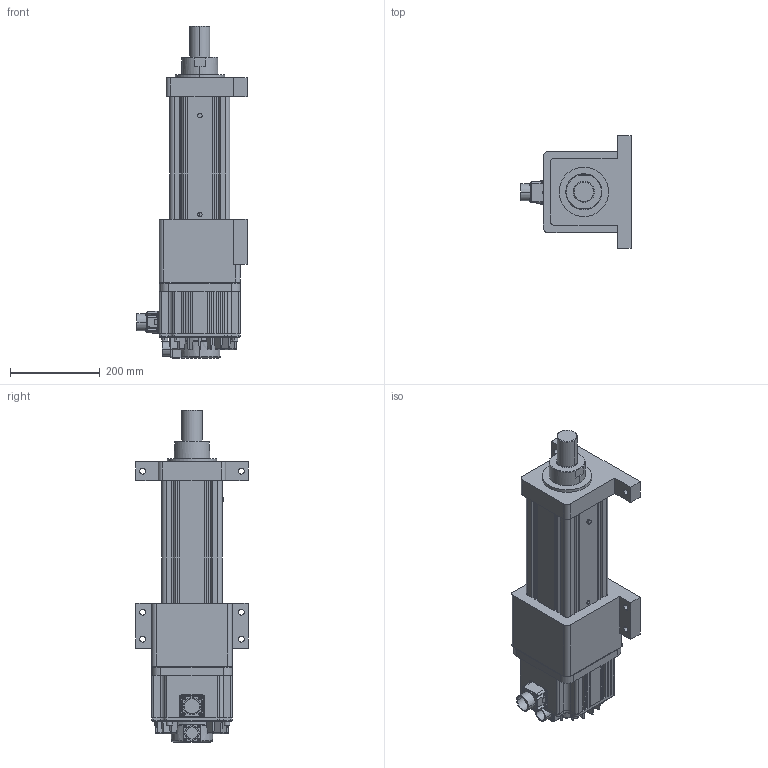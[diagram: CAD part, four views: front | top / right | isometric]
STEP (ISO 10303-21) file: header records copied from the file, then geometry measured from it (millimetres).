
FILE_DESCRIPTION (( 'STEP AP203' ), '1' );
FILE_NAME ('S5眻盄耜醱假蚾.STEP', '2024-05-27T05:32:50', ( '' ), ( '' ), 'SwSTEP 2.0', 'SolidWorks 2018', '' );
FILE_SCHEMA (( 'CONFIG_CONTROL_DESIGN' ));
Length unit declared in the file: millimetre
Products named in the file (3): ECMA-EX1820RS-180框號系列機種-2KW中慣量系列; S5眻盄耜醱; S5眻盄耜醱假蚾
Assembly tree (2 placements, depth 2):
  S5眻盄耜醱假蚾
    ECMA-EX1820RS-180框號系列機種-2KW中慣量系列
    S5眻盄耜醱
Bounding box: 245.02 x 250 x 738.7 mm (x, y, z)
Volume: 11661655.1 mm3; surface area: 954225.9 mm2
Topology: 3 solids, 15 shells, 926 faces, 2219 edges, 1401 vertices
Faces by surface type: plane 493, cylinder 328, cone 62, bspline 27, torus 16
Entity records: 29075 total; most frequent: CARTESIAN_POINT 7189, DIRECTION 4490, ORIENTED_EDGE 4434, EDGE_CURVE 2217, AXIS2_PLACEMENT_3D 1562, VERTEX_POINT 1401, VECTOR 1366, LINE 1366
